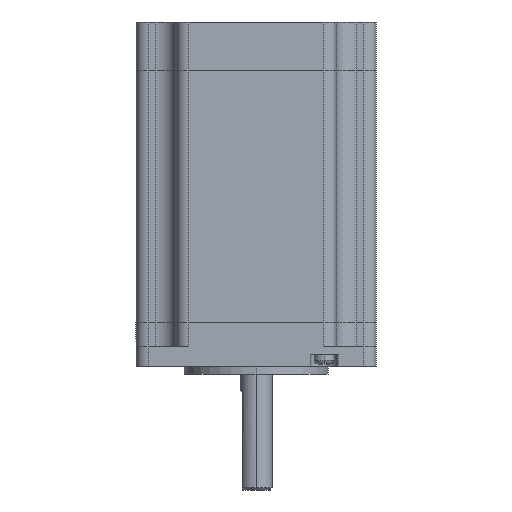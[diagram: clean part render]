
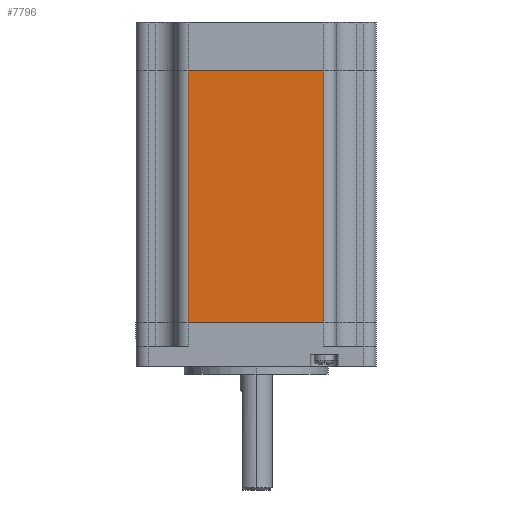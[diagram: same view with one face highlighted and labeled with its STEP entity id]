
A CAD part, left-side view. The second image highlights one B-rep face of the part: STEP entity #7796.
In plain terms, the highlighted planar face has unit normal (-1, 0, 0).
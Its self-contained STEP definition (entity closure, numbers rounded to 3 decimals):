
#4048 = PLANE ( 'NONE',  #4065 ) ;
#4060 = FACE_OUTER_BOUND ( 'NONE', #7758, .T. ) ;
#4061 = DIRECTION ( 'NONE',  ( 1., 0., 0. ) ) ;
#4062 = CARTESIAN_POINT ( 'NONE',  ( -30., 17., 63. ) ) ;
#4065 = AXIS2_PLACEMENT_3D ( 'NONE', #4062, #4061, #4183 ) ;
#4091 = CARTESIAN_POINT ( 'NONE',  ( -30., 17., 0. ) ) ;
#4092 = CARTESIAN_POINT ( 'NONE',  ( -30., -17., 0. ) ) ;
#4107 = LINE ( 'NONE', #4091, #4117 ) ;
#4116 = DIRECTION ( 'NONE',  ( 0., -1., 0. ) ) ;
#4117 = VECTOR ( 'NONE', #4116, 1000. ) ;
#4175 = CARTESIAN_POINT ( 'NONE',  ( -30., 17., 0. ) ) ;
#4183 = DIRECTION ( 'NONE',  ( 0., 1., 0. ) ) ;
#4584 = CARTESIAN_POINT ( 'NONE',  ( -30., 17., 63. ) ) ;
#4625 = CARTESIAN_POINT ( 'NONE',  ( -30., -17., 63. ) ) ;
#4640 = LINE ( 'NONE', #4625, #4660 ) ;
#4658 = DIRECTION ( 'NONE',  ( 0., 0., -1. ) ) ;
#4660 = VECTOR ( 'NONE', #4658, 1000. ) ;
#5007 = DIRECTION ( 'NONE',  ( 0., -1., 0. ) ) ;
#5008 = VECTOR ( 'NONE', #5007, 1000. ) ;
#5050 = CARTESIAN_POINT ( 'NONE',  ( -30., 17., 63. ) ) ;
#5052 = LINE ( 'NONE', #5050, #5008 ) ;
#5263 = CARTESIAN_POINT ( 'NONE',  ( -30., -17., 63. ) ) ;
#5336 = VECTOR ( 'NONE', #5358, 1000. ) ;
#5338 = CARTESIAN_POINT ( 'NONE',  ( -30., 17., 63. ) ) ;
#5342 = LINE ( 'NONE', #5338, #5336 ) ;
#5358 = DIRECTION ( 'NONE',  ( 0., 0., -1. ) ) ;
#7393 = ORIENTED_EDGE ( 'NONE', *, *, #7898, .F. ) ;
#7755 = EDGE_CURVE ( 'NONE', #7812, #7783, #4107, .T. ) ;
#7758 = EDGE_LOOP ( 'NONE', ( #8040, #7393, #7916, #8154 ) ) ;
#7783 = VERTEX_POINT ( 'NONE', #4092 ) ;
#7796 = ADVANCED_FACE ( 'NONE', ( #4060 ), #4048, .F. ) ;
#7812 = VERTEX_POINT ( 'NONE', #4175 ) ;
#7898 = EDGE_CURVE ( 'NONE', #8125, #7783, #4640, .T. ) ;
#7916 = ORIENTED_EDGE ( 'NONE', *, *, #8127, .F. ) ;
#8040 = ORIENTED_EDGE ( 'NONE', *, *, #7755, .T. ) ;
#8043 = VERTEX_POINT ( 'NONE', #4584 ) ;
#8092 = EDGE_CURVE ( 'NONE', #8043, #7812, #5342, .T. ) ;
#8125 = VERTEX_POINT ( 'NONE', #5263 ) ;
#8127 = EDGE_CURVE ( 'NONE', #8043, #8125, #5052, .T. ) ;
#8154 = ORIENTED_EDGE ( 'NONE', *, *, #8092, .T. ) ;
